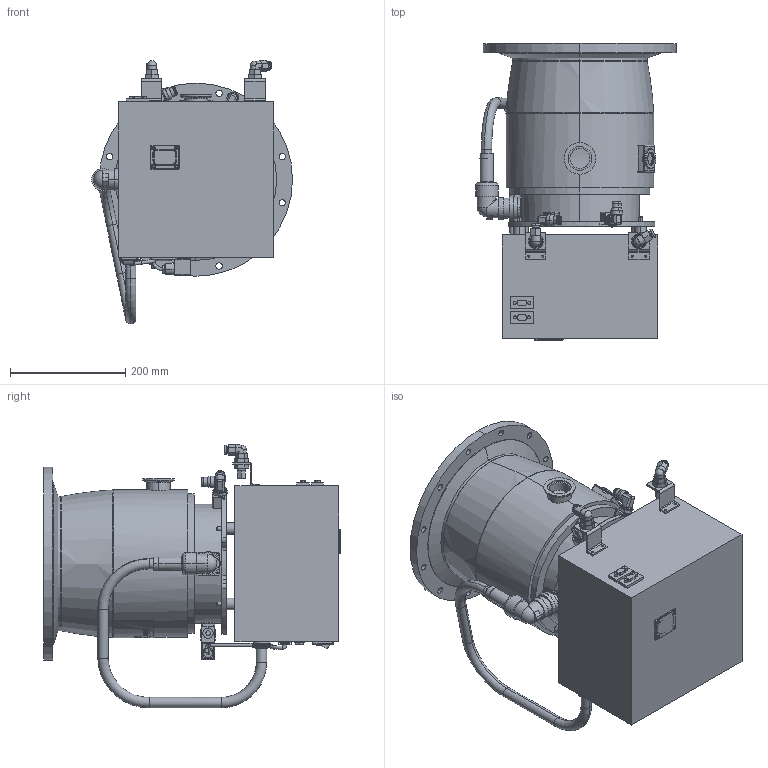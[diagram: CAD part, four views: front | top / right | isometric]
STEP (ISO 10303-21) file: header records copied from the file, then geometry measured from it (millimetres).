
FILE_DESCRIPTION((''),'2;1');
FILE_NAME('ENV-ATH1600M-P2662158-OBC-V3','2007-03-12T',('NVARENNES'),(''),'PRO/ENGINEER BY PARAMETRIC TECHNOLOGY CORPORATION, 2006200','PRO/ENGINEER BY PARAMETRIC TECHNOLOGY CORPORATION, 2006200','');
FILE_SCHEMA(('CONFIG_CONTROL_DESIGN'));
Products named in the file (1): ENV-ATH1600M-P2662158-OBC-V3
Bounding box: 348.6 x 515.05 x 457.31 mm (x, y, z)
Volume: 28967268 mm3; surface area: 1024210.9 mm2
Topology: 3 solids, 26 shells, 1846 faces, 4584 edges, 2902 vertices
Faces by surface type: cylinder 767, plane 696, bspline 173, cone 121, torus 70, sphere 19
Entity records: 61882 total; most frequent: CARTESIAN_POINT 17193, DIRECTION 9162, ORIENTED_EDGE 9102, EDGE_CURVE 4551, AXIS2_PLACEMENT_3D 3471, VERTEX_POINT 2902, EDGE_LOOP 2229, VECTOR 2220
